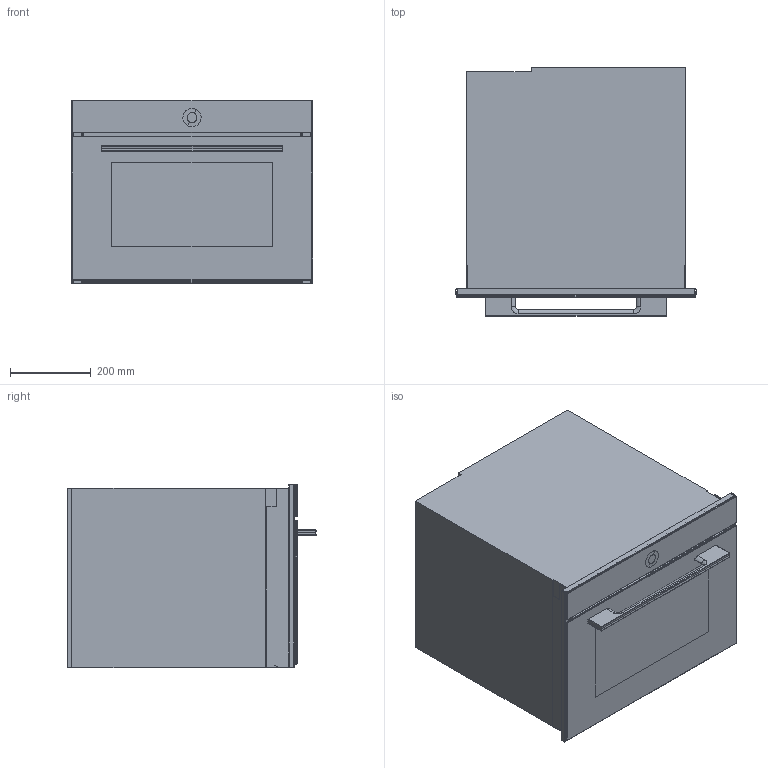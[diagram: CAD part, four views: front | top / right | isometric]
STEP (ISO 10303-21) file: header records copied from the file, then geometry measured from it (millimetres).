
FILE_DESCRIPTION(/* description */ (''),/* implementation_level */ '2;1');
FILE_NAME(/* name */ 'X2104800001',/* time_stamp */ '2020-10-15T14:42:38+02:00',/* author */ (''),/* organization */ (''),/* preprocessor_version */ 'ST-DEVELOPER v16.5',/* originating_system */ '',/* authorisation */ '');
FILE_SCHEMA (('AUTOMOTIVE_DESIGN'));
Length unit declared in the file: millimetre
Products named in the file (1): Document
Bounding box: 597 x 614.88 x 454.05 mm (x, y, z)
Volume: 128956803 mm3; surface area: 3080608.3 mm2
Topology: 12 solids, 12 shells, 332 faces, 805 edges, 482 vertices
Faces by surface type: plane 172, bspline 160
Entity records: 13105 total; most frequent: CARTESIAN_POINT 8116, ORIENTED_EDGE 1578, EDGE_CURVE 789, VERTEX_POINT 482, B_SPLINE_CURVE_WITH_KNOTS 449, EDGE_LOOP 339, ADVANCED_FACE 332, FACE_OUTER_BOUND 332
